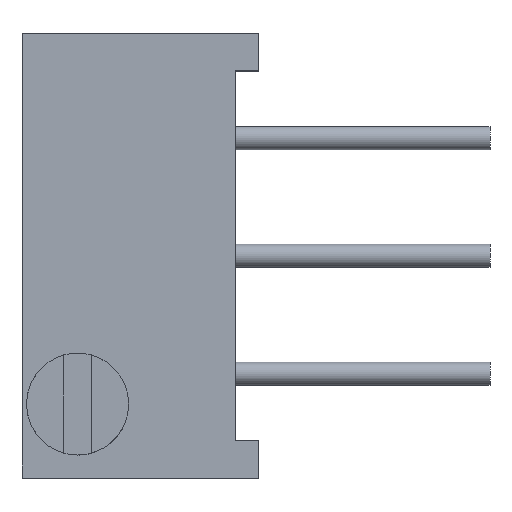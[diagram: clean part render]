
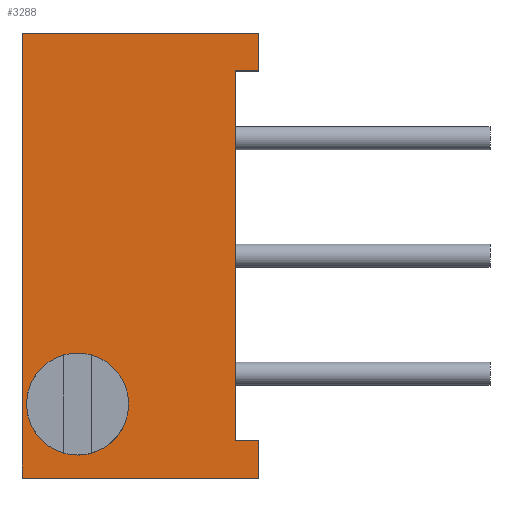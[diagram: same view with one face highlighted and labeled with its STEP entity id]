
A CAD part, top view. The second image highlights one B-rep face of the part: STEP entity #3288.
In plain terms, the highlighted planar face has unit normal (0, 0, 1).
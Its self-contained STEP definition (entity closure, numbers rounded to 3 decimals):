
#42=CIRCLE('',#3438,1.1);
#357=ORIENTED_EDGE('',*,*,#1065,.F.);
#358=ORIENTED_EDGE('',*,*,#1066,.F.);
#359=ORIENTED_EDGE('',*,*,#1067,.F.);
#360=ORIENTED_EDGE('',*,*,#1068,.T.);
#361=ORIENTED_EDGE('',*,*,#1052,.F.);
#362=ORIENTED_EDGE('',*,*,#1069,.F.);
#363=ORIENTED_EDGE('',*,*,#1070,.F.);
#364=ORIENTED_EDGE('',*,*,#1071,.T.);
#365=ORIENTED_EDGE('',*,*,#948,.T.);
#948=EDGE_CURVE('',#1304,#1302,#1542,.T.);
#1052=EDGE_CURVE('',#1407,#1397,#1556,.T.);
#1065=EDGE_CURVE('',#1418,#1418,#42,.T.);
#1066=EDGE_CURVE('',#1419,#1302,#1568,.T.);
#1067=EDGE_CURVE('',#1420,#1419,#1569,.T.);
#1068=EDGE_CURVE('',#1420,#1397,#1570,.T.);
#1069=EDGE_CURVE('',#1421,#1407,#1571,.T.);
#1070=EDGE_CURVE('',#1422,#1421,#1572,.T.);
#1071=EDGE_CURVE('',#1422,#1304,#1573,.T.);
#1302=VERTEX_POINT('',#4000);
#1304=VERTEX_POINT('',#4003);
#1397=VERTEX_POINT('',#4505);
#1407=VERTEX_POINT('',#4525);
#1418=VERTEX_POINT('',#4554);
#1419=VERTEX_POINT('',#4556);
#1420=VERTEX_POINT('',#4558);
#1421=VERTEX_POINT('',#4561);
#1422=VERTEX_POINT('',#4563);
#1542=LINE('',#4002,#1698);
#1556=LINE('',#4526,#1712);
#1568=LINE('',#4555,#1724);
#1569=LINE('',#4557,#1725);
#1570=LINE('',#4559,#1726);
#1571=LINE('',#4560,#1727);
#1572=LINE('',#4562,#1728);
#1573=LINE('',#4564,#1729);
#1698=VECTOR('',#3570,1000.);
#1712=VECTOR('',#3592,1000.);
#1724=VECTOR('',#3616,1000.);
#1725=VECTOR('',#3617,1000.);
#1726=VECTOR('',#3618,1000.);
#1727=VECTOR('',#3619,1000.);
#1728=VECTOR('',#3620,1000.);
#1729=VECTOR('',#3621,1000.);
#1873=EDGE_LOOP('',(#357));
#1874=EDGE_LOOP('',(#358,#359,#360,#361,#362,#363,#364,#365));
#2035=FACE_BOUND('',#1873,.T.);
#2036=FACE_BOUND('',#1874,.T.);
#2182=PLANE('',#3437);
#3288=ADVANCED_FACE('',(#2035,#2036),#2182,.T.);
#3437=AXIS2_PLACEMENT_3D('',#4552,#3612,#3613);
#3438=AXIS2_PLACEMENT_3D('',#4553,#3614,#3615);
#3570=DIRECTION('',(0.,-1.,0.));
#3592=DIRECTION('',(0.,-1.,0.));
#3612=DIRECTION('',(0.,0.,1.));
#3613=DIRECTION('',(1.,0.,0.));
#3614=DIRECTION('',(0.,0.,1.));
#3615=DIRECTION('',(1.,0.,0.));
#3616=DIRECTION('',(-1.,0.,0.));
#3617=DIRECTION('',(0.,-1.,0.));
#3618=DIRECTION('',(-1.,0.,0.));
#3619=DIRECTION('',(-1.,0.,0.));
#3620=DIRECTION('',(0.,-1.,0.));
#3621=DIRECTION('',(-1.,0.,0.));
#4000=CARTESIAN_POINT('',(-2.3,0.,4.85));
#4002=CARTESIAN_POINT('',(-2.3,9.6,4.85));
#4003=CARTESIAN_POINT('',(-2.3,9.6,4.85));
#4505=CARTESIAN_POINT('',(2.3,0.8,4.85));
#4525=CARTESIAN_POINT('',(2.3,8.8,4.85));
#4526=CARTESIAN_POINT('',(2.3,9.6,4.85));
#4552=CARTESIAN_POINT('',(2.3,9.6,4.85));
#4553=CARTESIAN_POINT('',(-1.1,1.595,4.85));
#4554=CARTESIAN_POINT('',(0.,1.595,4.85));
#4555=CARTESIAN_POINT('',(2.3,0.,4.85));
#4556=CARTESIAN_POINT('',(2.8,0.,4.85));
#4557=CARTESIAN_POINT('',(2.8,0.8,4.85));
#4558=CARTESIAN_POINT('',(2.8,0.8,4.85));
#4559=CARTESIAN_POINT('',(2.8,0.8,4.85));
#4560=CARTESIAN_POINT('',(2.8,8.8,4.85));
#4561=CARTESIAN_POINT('',(2.8,8.8,4.85));
#4562=CARTESIAN_POINT('',(2.8,9.6,4.85));
#4563=CARTESIAN_POINT('',(2.8,9.6,4.85));
#4564=CARTESIAN_POINT('',(2.3,9.6,4.85));
